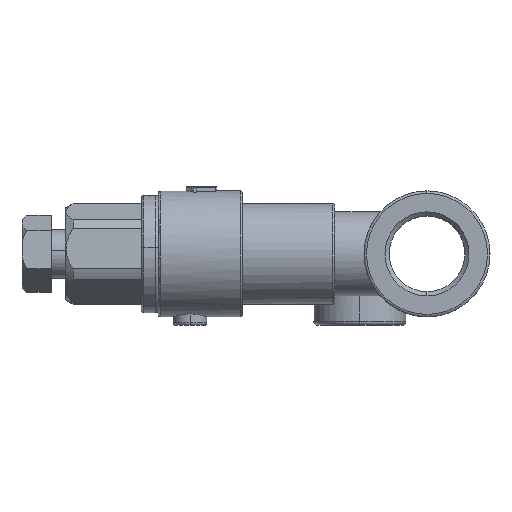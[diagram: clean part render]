
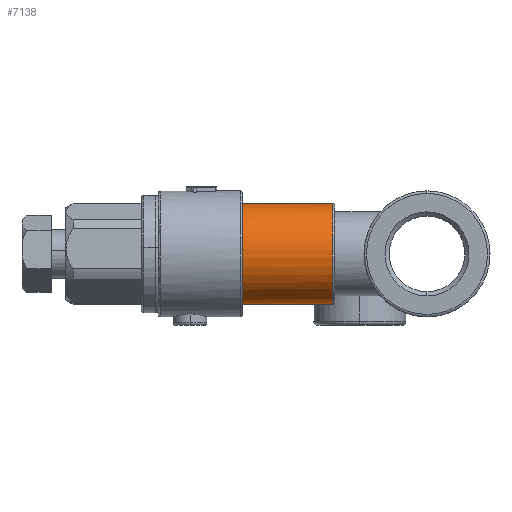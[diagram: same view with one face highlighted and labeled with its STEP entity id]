
A CAD part, left-side view. The second image highlights one B-rep face of the part: STEP entity #7138.
In plain terms, the highlighted cylindrical face has radius 6 mm (diameter 12 mm), a partial arc.
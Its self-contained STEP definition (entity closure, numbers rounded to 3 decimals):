
#104 = VERTEX_POINT ( 'NONE', #13080 ) ;
#371 = EDGE_CURVE ( 'NONE', #8744, #16139, #1117, .T. ) ;
#384 = CARTESIAN_POINT ( 'NONE',  ( 19.726, 72.382, 126.504 ) ) ;
#620 = CARTESIAN_POINT ( 'NONE',  ( 23.874, 61.752, 130.842 ) ) ;
#651 = CARTESIAN_POINT ( 'NONE',  ( 25.18, 72.382, 124.004 ) ) ;
#801 = EDGE_CURVE ( 'NONE', #7201, #2049, #1262, .T. ) ;
#1117 = B_SPLINE_CURVE_WITH_KNOTS ( 'NONE', 3,
 ( #8279, #620, #4513, #12317, #13615, #7190, #11086, #12367 ),
 .UNSPECIFIED., .F., .F.,
 ( 4, 2, 2, 4 ),
 ( 0.002, 0.002, 0.003, 0.004 ),
 .UNSPECIFIED. ) ;
#1262 = LINE ( 'NONE', #8207, #11194 ) ;
#1664 = DIRECTION ( 'NONE',  ( 1., 0., 0. ) ) ;
#1736 = CARTESIAN_POINT ( 'NONE',  ( 25.18, 50.382, 129.004 ) ) ;
#2049 = VERTEX_POINT ( 'NONE', #9132 ) ;
#2086 = ORIENTED_EDGE ( 'NONE', *, *, #12497, .T. ) ;
#2120 = ORIENTED_EDGE ( 'NONE', *, *, #7393, .T. ) ;
#2428 = AXIS2_PLACEMENT_3D ( 'NONE', #5823, #10912, #16123 ) ;
#3289 = CIRCLE ( 'NONE', #2428, 6. ) ;
#3387 = CARTESIAN_POINT ( 'NONE',  ( 24.254, 62.192, 122.563 ) ) ;
#3490 = CARTESIAN_POINT ( 'NONE',  ( 23.873, 61.751, 122.165 ) ) ;
#4513 = CARTESIAN_POINT ( 'NONE',  ( 24., 61.908, 130.718 ) ) ;
#4527 = EDGE_CURVE ( 'NONE', #9205, #16139, #7799, .T. ) ;
#5420 = ORIENTED_EDGE ( 'NONE', *, *, #371, .T. ) ;
#5823 = CARTESIAN_POINT ( 'NONE',  ( 19.726, 61.582, 126.504 ) ) ;
#6053 = CARTESIAN_POINT ( 'NONE',  ( 24.753, 62.649, 123.221 ) ) ;
#6614 = CARTESIAN_POINT ( 'NONE',  ( 25.18, 62.962, 129.004 ) ) ;
#6906 = DIRECTION ( 'NONE',  ( 0., -1., 0. ) ) ;
#7138 = ADVANCED_FACE ( 'NONE', ( #11783 ), #12995, .T. ) ;
#7190 = CARTESIAN_POINT ( 'NONE',  ( 24.76, 62.666, 129.795 ) ) ;
#7201 = VERTEX_POINT ( 'NONE', #651 ) ;
#7393 = EDGE_CURVE ( 'NONE', #9205, #7201, #13609, .T. ) ;
#7799 = LINE ( 'NONE', #1736, #10626 ) ;
#8207 = CARTESIAN_POINT ( 'NONE',  ( 25.18, 50.382, 124.004 ) ) ;
#8222 = ORIENTED_EDGE ( 'NONE', *, *, #4527, .F. ) ;
#8256 = DIRECTION ( 'NONE',  ( 0., -1., 0. ) ) ;
#8279 = CARTESIAN_POINT ( 'NONE',  ( 23.752, 61.582, 130.952 ) ) ;
#8450 = CARTESIAN_POINT ( 'NONE',  ( 24.979, 62.824, 123.597 ) ) ;
#8744 = VERTEX_POINT ( 'NONE', #16478 ) ;
#9132 = CARTESIAN_POINT ( 'NONE',  ( 25.18, 62.962, 124.004 ) ) ;
#9205 = VERTEX_POINT ( 'NONE', #11361 ) ;
#9451 = DIRECTION ( 'NONE',  ( 0., -1., 0. ) ) ;
#9847 = CARTESIAN_POINT ( 'NONE',  ( 23.999, 61.906, 122.288 ) ) ;
#9895 = CARTESIAN_POINT ( 'NONE',  ( 23.752, 61.582, 122.056 ) ) ;
#10626 = VECTOR ( 'NONE', #13547, 1000. ) ;
#10738 = DIRECTION ( 'NONE',  ( 1., 0., 0. ) ) ;
#10912 = DIRECTION ( 'NONE',  ( 0., 1., 0. ) ) ;
#11086 = CARTESIAN_POINT ( 'NONE',  ( 24.989, 62.834, 129.421 ) ) ;
#11194 = VECTOR ( 'NONE', #6906, 1000. ) ;
#11361 = CARTESIAN_POINT ( 'NONE',  ( 25.18, 72.382, 129.004 ) ) ;
#11783 = FACE_OUTER_BOUND ( 'NONE', #16525, .T. ) ;
#12317 = CARTESIAN_POINT ( 'NONE',  ( 24.255, 62.192, 130.444 ) ) ;
#12366 = CARTESIAN_POINT ( 'NONE',  ( 24.633, 62.55, 123.045 ) ) ;
#12367 = CARTESIAN_POINT ( 'NONE',  ( 25.18, 62.962, 129.004 ) ) ;
#12479 = CARTESIAN_POINT ( 'NONE',  ( 24.384, 62.322, 122.717 ) ) ;
#12497 = EDGE_CURVE ( 'NONE', #104, #8744, #3289, .T. ) ;
#12532 = CARTESIAN_POINT ( 'NONE',  ( 25.18, 62.962, 124.004 ) ) ;
#12704 = EDGE_CURVE ( 'NONE', #104, #2049, #13680, .T. ) ;
#12995 = CYLINDRICAL_SURFACE ( 'NONE', #15271, 6. ) ;
#13080 = CARTESIAN_POINT ( 'NONE',  ( 23.752, 61.582, 122.056 ) ) ;
#13400 = ORIENTED_EDGE ( 'NONE', *, *, #801, .T. ) ;
#13547 = DIRECTION ( 'NONE',  ( 0., -1., 0. ) ) ;
#13609 = CIRCLE ( 'NONE', #15048, 6. ) ;
#13615 = CARTESIAN_POINT ( 'NONE',  ( 24.384, 62.321, 130.292 ) ) ;
#13680 = B_SPLINE_CURVE_WITH_KNOTS ( 'NONE', 3,
 ( #9895, #3490, #9847, #3387, #12479, #12366, #6053, #8450, #15093, #12532 ),
 .UNSPECIFIED., .F., .F.,
 ( 4, 2, 2, 2, 4 ),
 ( 0.013, 0.014, 0.015, 0.016, 0.016 ),
 .UNSPECIFIED. ) ;
#15048 = AXIS2_PLACEMENT_3D ( 'NONE', #384, #9451, #10738 ) ;
#15093 = CARTESIAN_POINT ( 'NONE',  ( 25.085, 62.899, 123.797 ) ) ;
#15271 = AXIS2_PLACEMENT_3D ( 'NONE', #15869, #8256, #1664 ) ;
#15679 = ORIENTED_EDGE ( 'NONE', *, *, #12704, .F. ) ;
#15869 = CARTESIAN_POINT ( 'NONE',  ( 19.726, 50.382, 126.504 ) ) ;
#16123 = DIRECTION ( 'NONE',  ( 1., 0., 0. ) ) ;
#16139 = VERTEX_POINT ( 'NONE', #6614 ) ;
#16478 = CARTESIAN_POINT ( 'NONE',  ( 23.752, 61.582, 130.952 ) ) ;
#16525 = EDGE_LOOP ( 'NONE', ( #2086, #5420, #8222, #2120, #13400, #15679 ) ) ;
